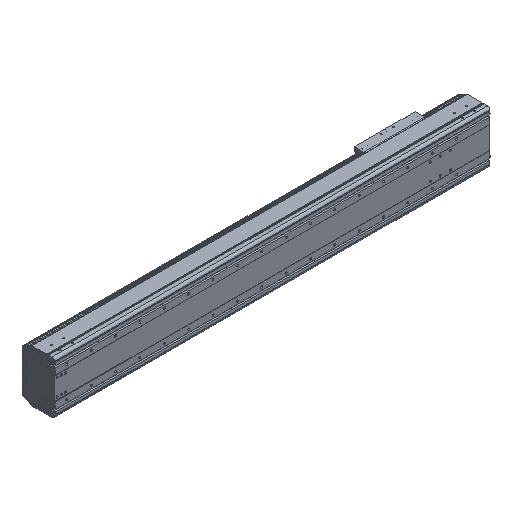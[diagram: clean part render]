
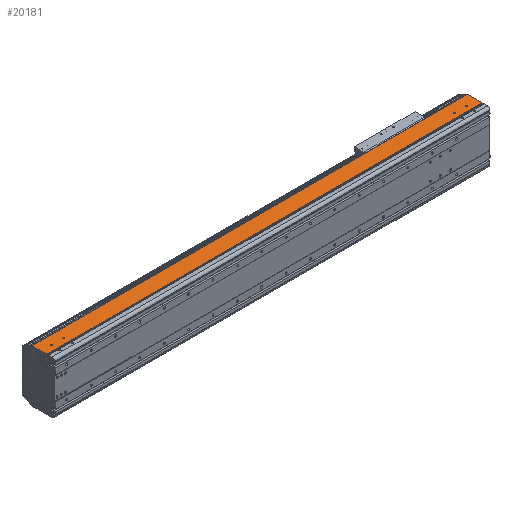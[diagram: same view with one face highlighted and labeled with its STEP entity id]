
A CAD part, isometric view. The second image highlights one B-rep face of the part: STEP entity #20181.
In plain terms, the highlighted planar face has unit normal (0, 0, 1).
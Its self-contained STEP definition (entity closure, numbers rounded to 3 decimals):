
#4436=DIRECTION('',(1.,0.,0.));
#4437=VECTOR('',#4436,2.);
#4438=CARTESIAN_POINT('',(0.,34.65,107.));
#4439=LINE('',#4438,#4437);
#4444=CARTESIAN_POINT('',(-42.,54.,107.));
#4445=DIRECTION('',(0.,0.,-1.));
#4446=DIRECTION('',(1.,0.,0.));
#4447=AXIS2_PLACEMENT_3D('',#4444,#4445,#4446);
#4449=CARTESIAN_POINT('',(-42.,54.,107.));
#4450=DIRECTION('',(0.,0.,-1.));
#4451=DIRECTION('',(-1.,0.,0.));
#4452=AXIS2_PLACEMENT_3D('',#4449,#4450,#4451);
#4454=CARTESIAN_POINT('',(-92.,54.,107.));
#4455=DIRECTION('',(0.,0.,-1.));
#4456=DIRECTION('',(1.,0.,0.));
#4457=AXIS2_PLACEMENT_3D('',#4454,#4455,#4456);
#4459=CARTESIAN_POINT('',(-92.,54.,107.));
#4460=DIRECTION('',(0.,0.,-1.));
#4461=DIRECTION('',(-1.,0.,0.));
#4462=AXIS2_PLACEMENT_3D('',#4459,#4460,#4461);
#4464=CARTESIAN_POINT('',(-1744.,54.,107.));
#4465=DIRECTION('',(0.,0.,-1.));
#4466=DIRECTION('',(1.,0.,0.));
#4467=AXIS2_PLACEMENT_3D('',#4464,#4465,#4466);
#4469=CARTESIAN_POINT('',(-1744.,54.,107.));
#4470=DIRECTION('',(0.,0.,-1.));
#4471=DIRECTION('',(-1.,0.,0.));
#4472=AXIS2_PLACEMENT_3D('',#4469,#4470,#4471);
#4474=CARTESIAN_POINT('',(-1694.,54.,107.));
#4475=DIRECTION('',(0.,0.,-1.));
#4476=DIRECTION('',(1.,0.,0.));
#4477=AXIS2_PLACEMENT_3D('',#4474,#4475,#4476);
#4479=CARTESIAN_POINT('',(-1694.,54.,107.));
#4480=DIRECTION('',(0.,0.,-1.));
#4481=DIRECTION('',(-1.,0.,0.));
#4482=AXIS2_PLACEMENT_3D('',#4479,#4480,#4481);
#4484=DIRECTION('',(0.,-1.,0.));
#4485=VECTOR('',#4484,2.55);
#4486=CARTESIAN_POINT('',(-1784.,34.65,107.));
#4487=LINE('',#4486,#4485);
#4488=DIRECTION('',(0.,-1.,0.));
#4489=VECTOR('',#4488,58.85);
#4490=CARTESIAN_POINT('',(-1786.,93.5,107.));
#4491=LINE('',#4490,#4489);
#4492=DIRECTION('',(0.,1.,0.));
#4493=VECTOR('',#4492,58.85);
#4494=CARTESIAN_POINT('',(2.,34.65,107.));
#4495=LINE('',#4494,#4493);
#4496=DIRECTION('',(0.,1.,0.));
#4497=VECTOR('',#4496,2.55);
#4498=CARTESIAN_POINT('',(0.,32.1,107.));
#4499=LINE('',#4498,#4497);
#4608=DIRECTION('',(1.,0.,0.));
#4609=VECTOR('',#4608,2.);
#4610=CARTESIAN_POINT('',(-1786.,34.65,107.));
#4611=LINE('',#4610,#4609);
#4620=DIRECTION('',(-1.,0.,0.));
#4621=VECTOR('',#4620,1788.);
#4622=CARTESIAN_POINT('',(2.,93.5,107.));
#4623=LINE('',#4622,#4621);
#7298=DIRECTION('',(1.,0.,0.));
#7299=VECTOR('',#7298,1784.);
#7300=CARTESIAN_POINT('',(-1784.,32.1,107.));
#7301=LINE('',#7300,#7299);
#12425=CARTESIAN_POINT('',(-1786.,34.65,107.));
#12426=VERTEX_POINT('',#12425);
#12427=CARTESIAN_POINT('',(-1786.,93.5,107.));
#12428=VERTEX_POINT('',#12427);
#12649=CARTESIAN_POINT('',(-1784.,32.1,107.));
#12650=VERTEX_POINT('',#12649);
#12721=CARTESIAN_POINT('',(0.,32.1,107.));
#12722=VERTEX_POINT('',#12721);
#13201=CARTESIAN_POINT('',(-39.5,54.,107.));
#13202=CARTESIAN_POINT('',(-44.5,54.,107.));
#13203=VERTEX_POINT('',#13201);
#13204=VERTEX_POINT('',#13202);
#13205=CARTESIAN_POINT('',(-89.5,54.,107.));
#13206=CARTESIAN_POINT('',(-94.5,54.,107.));
#13207=VERTEX_POINT('',#13205);
#13208=VERTEX_POINT('',#13206);
#13209=CARTESIAN_POINT('',(-1741.5,54.,107.));
#13210=CARTESIAN_POINT('',(-1746.5,54.,107.));
#13211=VERTEX_POINT('',#13209);
#13212=VERTEX_POINT('',#13210);
#13213=CARTESIAN_POINT('',(-1691.5,54.,107.));
#13214=CARTESIAN_POINT('',(-1696.5,54.,107.));
#13215=VERTEX_POINT('',#13213);
#13216=VERTEX_POINT('',#13214);
#14414=CARTESIAN_POINT('',(2.,34.65,107.));
#14415=VERTEX_POINT('',#14414);
#14416=CARTESIAN_POINT('',(2.,93.5,107.));
#14417=VERTEX_POINT('',#14416);
#14638=CARTESIAN_POINT('',(0.,34.65,107.));
#14639=VERTEX_POINT('',#14638);
#14950=CARTESIAN_POINT('',(-1784.,34.65,107.));
#14951=VERTEX_POINT('',#14950);
#20139=CARTESIAN_POINT('',(-892.,62.8,107.));
#20140=DIRECTION('',(0.,0.,1.));
#20141=DIRECTION('',(0.,-1.,0.));
#20142=AXIS2_PLACEMENT_3D('',#20139,#20140,#20141);
#20143=PLANE('',#20142);
#20144=ORIENTED_EDGE('',*,*,#16403,.F.);
#20146=ORIENTED_EDGE('',*,*,#20145,.F.);
#20147=ORIENTED_EDGE('',*,*,#17473,.F.);
#20149=ORIENTED_EDGE('',*,*,#20148,.F.);
#20150=ORIENTED_EDGE('',*,*,#19947,.F.);
#20151=ORIENTED_EDGE('',*,*,#20132,.F.);
#20152=ORIENTED_EDGE('',*,*,#17010,.F.);
#20154=ORIENTED_EDGE('',*,*,#20153,.F.);
#20155=EDGE_LOOP('',(#20144,#20146,#20147,#20149,#20150,#20151,#20152,#20154));
#20156=FACE_OUTER_BOUND('',#20155,.F.);
#20158=ORIENTED_EDGE('',*,*,#20157,.F.);
#20160=ORIENTED_EDGE('',*,*,#20159,.F.);
#20161=EDGE_LOOP('',(#20158,#20160));
#20162=FACE_BOUND('',#20161,.F.);
#20164=ORIENTED_EDGE('',*,*,#20163,.F.);
#20166=ORIENTED_EDGE('',*,*,#20165,.F.);
#20167=EDGE_LOOP('',(#20164,#20166));
#20168=FACE_BOUND('',#20167,.F.);
#20170=ORIENTED_EDGE('',*,*,#20169,.F.);
#20172=ORIENTED_EDGE('',*,*,#20171,.F.);
#20173=EDGE_LOOP('',(#20170,#20172));
#20174=FACE_BOUND('',#20173,.F.);
#20176=ORIENTED_EDGE('',*,*,#20175,.F.);
#20178=ORIENTED_EDGE('',*,*,#20177,.F.);
#20179=EDGE_LOOP('',(#20176,#20178));
#20180=FACE_BOUND('',#20179,.F.);
#20181=ADVANCED_FACE('',(#20156,#20162,#20168,#20174,#20180),#20143,.T.);
#4448=CIRCLE('',#4447,2.5);
#4453=CIRCLE('',#4452,2.5);
#4458=CIRCLE('',#4457,2.5);
#4463=CIRCLE('',#4462,2.5);
#4468=CIRCLE('',#4467,2.5);
#4473=CIRCLE('',#4472,2.5);
#4478=CIRCLE('',#4477,2.5);
#4483=CIRCLE('',#4482,2.5);
#16403=EDGE_CURVE('',#14951,#12650,#4487,.T.);
#17010=EDGE_CURVE('',#12722,#14639,#4499,.T.);
#17473=EDGE_CURVE('',#12428,#12426,#4491,.T.);
#19947=EDGE_CURVE('',#14415,#14417,#4495,.T.);
#20132=EDGE_CURVE('',#14639,#14415,#4439,.T.);
#20145=EDGE_CURVE('',#12426,#14951,#4611,.T.);
#20148=EDGE_CURVE('',#14417,#12428,#4623,.T.);
#20153=EDGE_CURVE('',#12650,#12722,#7301,.T.);
#20157=EDGE_CURVE('',#13207,#13208,#4458,.T.);
#20159=EDGE_CURVE('',#13208,#13207,#4463,.T.);
#20163=EDGE_CURVE('',#13211,#13212,#4468,.T.);
#20165=EDGE_CURVE('',#13212,#13211,#4473,.T.);
#20169=EDGE_CURVE('',#13215,#13216,#4478,.T.);
#20171=EDGE_CURVE('',#13216,#13215,#4483,.T.);
#20175=EDGE_CURVE('',#13203,#13204,#4448,.T.);
#20177=EDGE_CURVE('',#13204,#13203,#4453,.T.);
